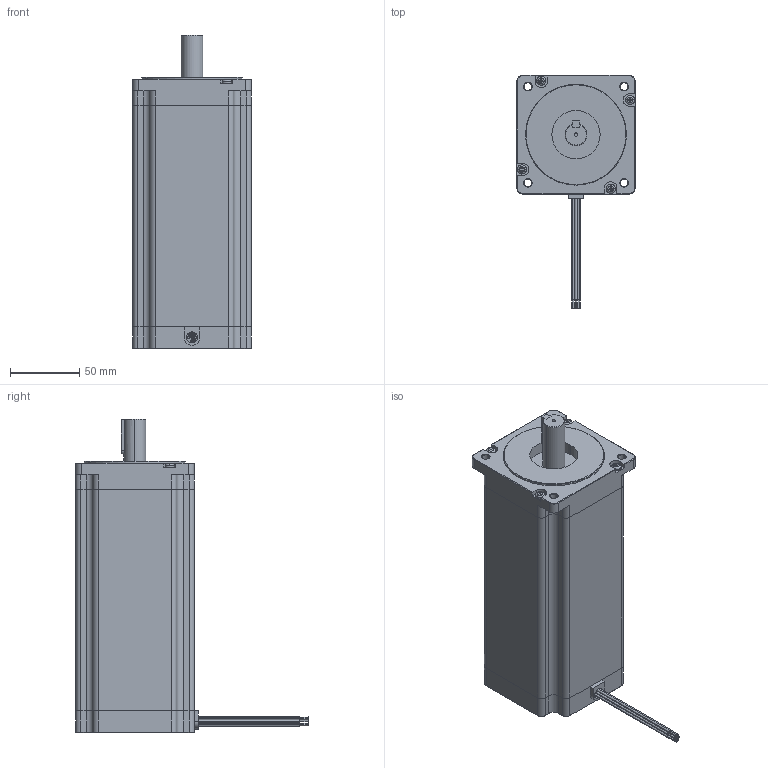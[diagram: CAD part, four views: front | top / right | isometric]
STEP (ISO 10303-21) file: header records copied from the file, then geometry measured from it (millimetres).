
FILE_DESCRIPTION (( 'STEP AP214' ), '1' );
FILE_NAME ('34Y408S-LW8.STEP', '2017-12-04T17:22:35', ( '' ), ( '' ), 'SwSTEP 2.0', 'SolidWorks 2017', '' );
FILE_SCHEMA (( 'AUTOMOTIVE_DESIGN' ));
Length unit declared in the file: inch
Products named in the file (1): 34Y408S-LW8
Bounding box: 85.85 x 168.4 x 226.82 mm (x, y, z)
Volume: 1317484.5 mm3; surface area: 86076.2 mm2
Topology: 1 solids, 1 shells, 363 faces, 915 edges, 580 vertices
Faces by surface type: plane 176, cylinder 124, cone 55, torus 8
Entity records: 15743 total; most frequent: CARTESIAN_POINT 2155, DIRECTION 1887, ORIENTED_EDGE 1814, EDGE_CURVE 907, AXIS2_PLACEMENT_3D 680, VERTEX_POINT 580, VECTOR 527, LINE 527
